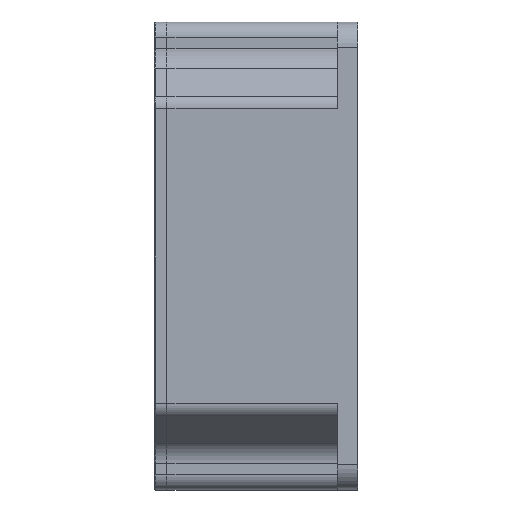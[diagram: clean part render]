
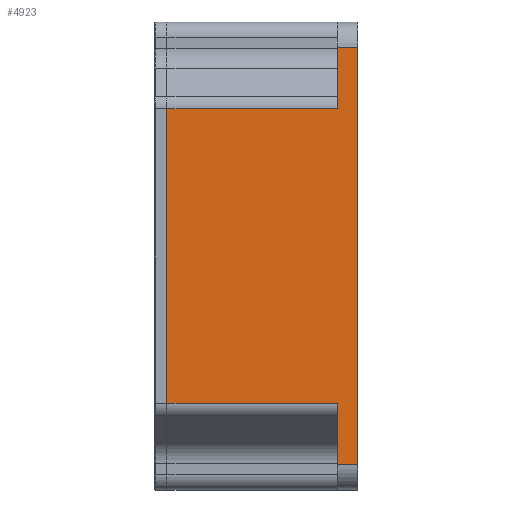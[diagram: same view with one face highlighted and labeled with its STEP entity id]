
A CAD part, left-side view. The second image highlights one B-rep face of the part: STEP entity #4923.
In plain terms, the highlighted planar face has unit normal (-1, 0, 0).
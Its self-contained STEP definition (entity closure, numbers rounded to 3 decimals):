
#4923 = ADVANCED_FACE ( 'NONE', ( #6118 ), #6119, .T. ) ;
#6116 = CARTESIAN_POINT ( 'NONE',  ( -53.5, -37.5, 46. ) ) ;
#6118 = FACE_OUTER_BOUND ( 'NONE', #13238, .T. ) ;
#6119 = PLANE ( 'NONE',  #28590 ) ;
#6122 = DIRECTION ( 'NONE',  ( -1., 0., 0. ) ) ;
#6123 = DIRECTION ( 'NONE',  ( 0., 0., 1. ) ) ;
#7476 = ORIENTED_EDGE ( 'NONE', *, *, #14611, .T. ) ;
#7477 = ORIENTED_EDGE ( 'NONE', *, *, #14612, .T. ) ;
#7478 = ORIENTED_EDGE ( 'NONE', *, *, #14592, .F. ) ;
#7479 = ORIENTED_EDGE ( 'NONE', *, *, #14613, .T. ) ;
#7480 = ORIENTED_EDGE ( 'NONE', *, *, #14614, .F. ) ;
#7481 = ORIENTED_EDGE ( 'NONE', *, *, #14615, .T. ) ;
#7482 = ORIENTED_EDGE ( 'NONE', *, *, #14585, .F. ) ;
#7483 = ORIENTED_EDGE ( 'NONE', *, *, #14616, .T. ) ;
#7569 = VERTEX_POINT ( 'NONE', #23097 ) ;
#7572 = VERTEX_POINT ( 'NONE', #23100 ) ;
#7574 = VERTEX_POINT ( 'NONE', #23102 ) ;
#7584 = VERTEX_POINT ( 'NONE', #23112 ) ;
#7585 = VERTEX_POINT ( 'NONE', #23113 ) ;
#7590 = VERTEX_POINT ( 'NONE', #23118 ) ;
#7591 = VERTEX_POINT ( 'NONE', #23119 ) ;
#7629 = VERTEX_POINT ( 'NONE', #23157 ) ;
#13238 = EDGE_LOOP ( 'NONE', ( #7476, #7477, #7478, #7479, #7480, #7481, #7482, #7483 ) ) ;
#14585 = EDGE_CURVE ( 'NONE', #7591, #7590, #17279, .T. ) ;
#14592 = EDGE_CURVE ( 'NONE', #7629, #7585, #17306, .T. ) ;
#14611 = EDGE_CURVE ( 'NONE', #7574, #7572, #17364, .T. ) ;
#14612 = EDGE_CURVE ( 'NONE', #7572, #7585, #17343, .T. ) ;
#14613 = EDGE_CURVE ( 'NONE', #7629, #7584, #17369, .T. ) ;
#14614 = EDGE_CURVE ( 'NONE', #7569, #7584, #17372, .T. ) ;
#14615 = EDGE_CURVE ( 'NONE', #7569, #7590, #17375, .T. ) ;
#14616 = EDGE_CURVE ( 'NONE', #7591, #7574, #17378, .T. ) ;
#17279 = LINE ( 'NONE', #17280, #29499 ) ;
#17280 = CARTESIAN_POINT ( 'NONE',  ( -53.5, -33.5, -46.2 ) ) ;
#17289 = DIRECTION ( 'NONE',  ( 0., 0., 1. ) ) ;
#17301 = CARTESIAN_POINT ( 'NONE',  ( -53.5, -33.5, 46.2 ) ) ;
#17306 = LINE ( 'NONE', #17301, #29501 ) ;
#17310 = DIRECTION ( 'NONE',  ( 0., 0., 1. ) ) ;
#17343 = LINE ( 'NONE', #17367, #29467 ) ;
#17364 = LINE ( 'NONE', #17365, #29461 ) ;
#17365 = CARTESIAN_POINT ( 'NONE',  ( -53.5, -37.5, 46. ) ) ;
#17366 = DIRECTION ( 'NONE',  ( 0., 0., 1. ) ) ;
#17367 = CARTESIAN_POINT ( 'NONE',  ( -53.5, -37.5, 41. ) ) ;
#17368 = DIRECTION ( 'NONE',  ( 0., 1., 0. ) ) ;
#17369 = LINE ( 'NONE', #17370, #29459 ) ;
#17370 = CARTESIAN_POINT ( 'NONE',  ( -53.5, 0., 28.967 ) ) ;
#17371 = DIRECTION ( 'NONE',  ( 0., 1., 0. ) ) ;
#17372 = LINE ( 'NONE', #17373, #29458 ) ;
#17373 = CARTESIAN_POINT ( 'NONE',  ( -53.5, 0., 46. ) ) ;
#17374 = DIRECTION ( 'NONE',  ( 0., 0., 1. ) ) ;
#17375 = LINE ( 'NONE', #17376, #29457 ) ;
#17376 = CARTESIAN_POINT ( 'NONE',  ( -53.5, -33.5, -28.967 ) ) ;
#17377 = DIRECTION ( 'NONE',  ( 0., -1., 0. ) ) ;
#17378 = LINE ( 'NONE', #17379, #29456 ) ;
#17379 = CARTESIAN_POINT ( 'NONE',  ( -53.5, -37.5, -41. ) ) ;
#17380 = DIRECTION ( 'NONE',  ( 0., -1., 0. ) ) ;
#23097 = CARTESIAN_POINT ( 'NONE',  ( -53.5, 0., -28.967 ) ) ;
#23100 = CARTESIAN_POINT ( 'NONE',  ( -53.5, -37.5, 41. ) ) ;
#23102 = CARTESIAN_POINT ( 'NONE',  ( -53.5, -37.5, -41. ) ) ;
#23112 = CARTESIAN_POINT ( 'NONE',  ( -53.5, 0., 28.967 ) ) ;
#23113 = CARTESIAN_POINT ( 'NONE',  ( -53.5, -33.5, 41. ) ) ;
#23118 = CARTESIAN_POINT ( 'NONE',  ( -53.5, -33.5, -28.967 ) ) ;
#23119 = CARTESIAN_POINT ( 'NONE',  ( -53.5, -33.5, -41. ) ) ;
#23157 = CARTESIAN_POINT ( 'NONE',  ( -53.5, -33.5, 28.967 ) ) ;
#28590 = AXIS2_PLACEMENT_3D ( 'NONE', #6116, #6122, #6123 ) ;
#29456 = VECTOR ( 'NONE', #17380, 1000. ) ;
#29457 = VECTOR ( 'NONE', #17377, 1000. ) ;
#29458 = VECTOR ( 'NONE', #17374, 1000. ) ;
#29459 = VECTOR ( 'NONE', #17371, 1000. ) ;
#29461 = VECTOR ( 'NONE', #17366, 1000. ) ;
#29467 = VECTOR ( 'NONE', #17368, 1000. ) ;
#29499 = VECTOR ( 'NONE', #17289, 1000. ) ;
#29501 = VECTOR ( 'NONE', #17310, 1000. ) ;
